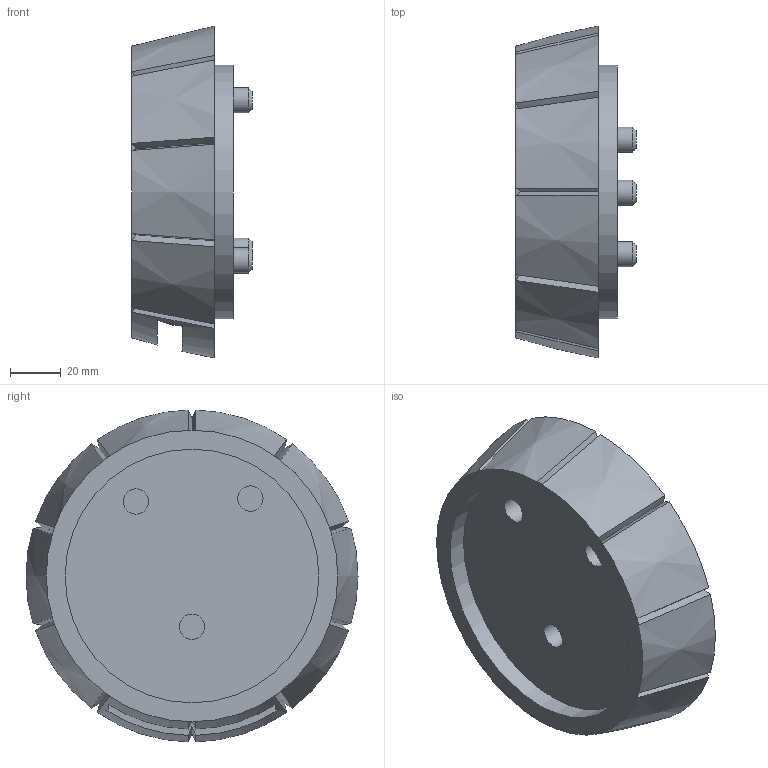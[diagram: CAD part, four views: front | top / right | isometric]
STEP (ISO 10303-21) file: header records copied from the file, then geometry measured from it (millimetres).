
FILE_DESCRIPTION(/* description */ (''),/* implementation_level */ '2;1');
FILE_NAME(/* name */ 'Left Barrel.step',/* time_stamp */ '2024-01-09T12:31:24-05:00',/* author */ (''),/* organization */ (''),/* preprocessor_version */ 'ST-DEVELOPER v20',/* originating_system */ 'Autodesk Translation Framework v12.14.0.127',/* authorisation */ '');
FILE_SCHEMA (('AUTOMOTIVE_DESIGN { 1 0 10303 214 3 1 1 }','TECHNICAL_DATA_PACKAGING','INTEGRATED_CNC_SCHEMA','MODEL_BASED_INTEGRATED_MANUFACTURING_SCHEMA','AP242_MANAGED_MODEL_BASED_3D_ENGINEERING_MIM_LF { 1 0 10303 442 3 1 4 }'));
Length unit declared in the file: millimetre
Products named in the file (1): Left Barrel
Bounding box: 47.5 x 130.92 x 130.89 mm (x, y, z)
Volume: 377118.8 mm3; surface area: 46720.4 mm2
Topology: 1 solids, 1 shells, 72 faces, 173 edges, 111 vertices
Faces by surface type: bspline 32, plane 25, cylinder 12, cone 3
Full cylindrical faces by diameter (mm): 10 x6, 100 x2
Entity records: 2315 total; most frequent: CARTESIAN_POINT 817, ORIENTED_EDGE 346, DIRECTION 239, EDGE_CURVE 173, VERTEX_POINT 111, AXIS2_PLACEMENT_3D 99, EDGE_LOOP 80, B_SPLINE_CURVE_WITH_KNOTS 74
